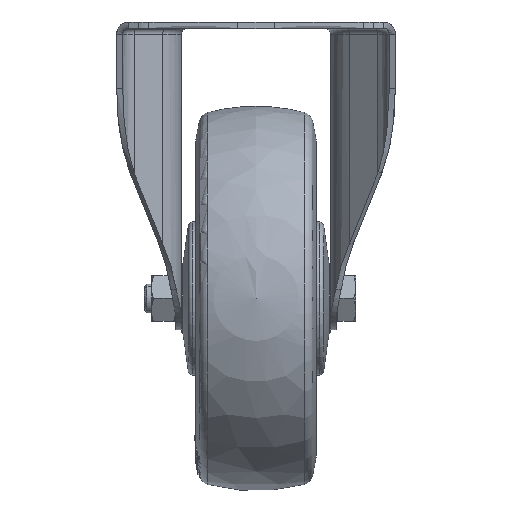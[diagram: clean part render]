
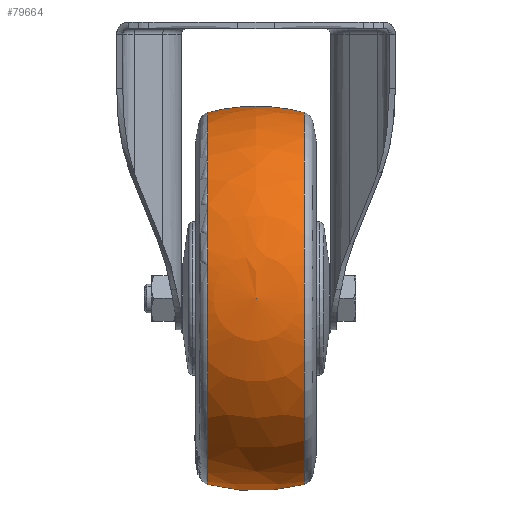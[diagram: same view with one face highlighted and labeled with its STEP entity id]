
A CAD part, top view. The second image highlights one B-rep face of the part: STEP entity #79664.
In plain terms, the highlighted spherical face has radius 80 mm.
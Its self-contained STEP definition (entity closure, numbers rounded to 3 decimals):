
#2747 = CIRCLE ( 'NONE', #61790, 77.458 ) ;
#2956 = CARTESIAN_POINT ( 'NONE',  ( -20.007, 0., 0. ) ) ;
#3491 = ORIENTED_EDGE ( 'NONE', *, *, #40271, .F. ) ;
#5111 = CARTESIAN_POINT ( 'NONE',  ( 0., 0., 0. ) ) ;
#6239 = AXIS2_PLACEMENT_3D ( 'NONE', #7341, #38401, #33206 ) ;
#7341 = CARTESIAN_POINT ( 'NONE',  ( 0., 0., 0. ) ) ;
#7479 = ORIENTED_EDGE ( 'NONE', *, *, #48362, .T. ) ;
#9768 = CARTESIAN_POINT ( 'NONE',  ( -20.007, -77.458, 0. ) ) ;
#19106 = DIRECTION ( 'NONE',  ( 1., 0., 0. ) ) ;
#20581 = ORIENTED_EDGE ( 'NONE', *, *, #26783, .T. ) ;
#21754 = DIRECTION ( 'NONE',  ( 1., 0., 0. ) ) ;
#23049 = VERTEX_POINT ( 'NONE', #51234 ) ;
#25209 = AXIS2_PLACEMENT_3D ( 'NONE', #2956, #21754, #52376 ) ;
#26783 = EDGE_CURVE ( 'NONE', #45362, #34154, #40743, .T. ) ;
#29906 = DIRECTION ( 'NONE',  ( 0., 0., 1. ) ) ;
#32507 = CARTESIAN_POINT ( 'NONE',  ( 20.007, -77.458, 0. ) ) ;
#33206 = DIRECTION ( 'NONE',  ( -0.25, 0.968, 0. ) ) ;
#34154 = VERTEX_POINT ( 'NONE', #9768 ) ;
#38401 = DIRECTION ( 'NONE',  ( 0., 0., -1. ) ) ;
#38881 = DIRECTION ( 'NONE',  ( 0., 0., 1. ) ) ;
#40271 = EDGE_CURVE ( 'NONE', #23049, #57354, #2747, .T. ) ;
#40743 = CIRCLE ( 'NONE', #25209, 77.458 ) ;
#43511 = SPHERICAL_SURFACE ( 'NONE', #46362, 80. ) ;
#45229 = DIRECTION ( 'NONE',  ( -0.25, -0.968, 0. ) ) ;
#45362 = VERTEX_POINT ( 'NONE', #48206 ) ;
#45498 = CARTESIAN_POINT ( 'NONE',  ( 0., 0., 0. ) ) ;
#46362 = AXIS2_PLACEMENT_3D ( 'NONE', #5111, #29906, #48788 ) ;
#47964 = FACE_OUTER_BOUND ( 'NONE', #79788, .T. ) ;
#48206 = CARTESIAN_POINT ( 'NONE',  ( -20.007, 77.458, 0. ) ) ;
#48362 = EDGE_CURVE ( 'NONE', #34154, #57354, #57041, .T. ) ;
#48788 = DIRECTION ( 'NONE',  ( 0., -1., 0. ) ) ;
#49059 = AXIS2_PLACEMENT_3D ( 'NONE', #45498, #38881, #45229 ) ;
#49999 = CARTESIAN_POINT ( 'NONE',  ( 20.007, 0., 0. ) ) ;
#51234 = CARTESIAN_POINT ( 'NONE',  ( 20.007, 77.458, 0. ) ) ;
#52376 = DIRECTION ( 'NONE',  ( 0., 1., 0. ) ) ;
#57041 = CIRCLE ( 'NONE', #49059, 80. ) ;
#57354 = VERTEX_POINT ( 'NONE', #32507 ) ;
#59842 = EDGE_CURVE ( 'NONE', #45362, #23049, #74798, .T. ) ;
#61790 = AXIS2_PLACEMENT_3D ( 'NONE', #49999, #19106, #69110 ) ;
#67405 = ORIENTED_EDGE ( 'NONE', *, *, #59842, .F. ) ;
#69110 = DIRECTION ( 'NONE',  ( 0., 1., 0. ) ) ;
#74798 = CIRCLE ( 'NONE', #6239, 80. ) ;
#79664 = ADVANCED_FACE ( 'NONE', ( #47964 ), #43511, .T. ) ;
#79788 = EDGE_LOOP ( 'NONE', ( #20581, #7479, #3491, #67405 ) ) ;
